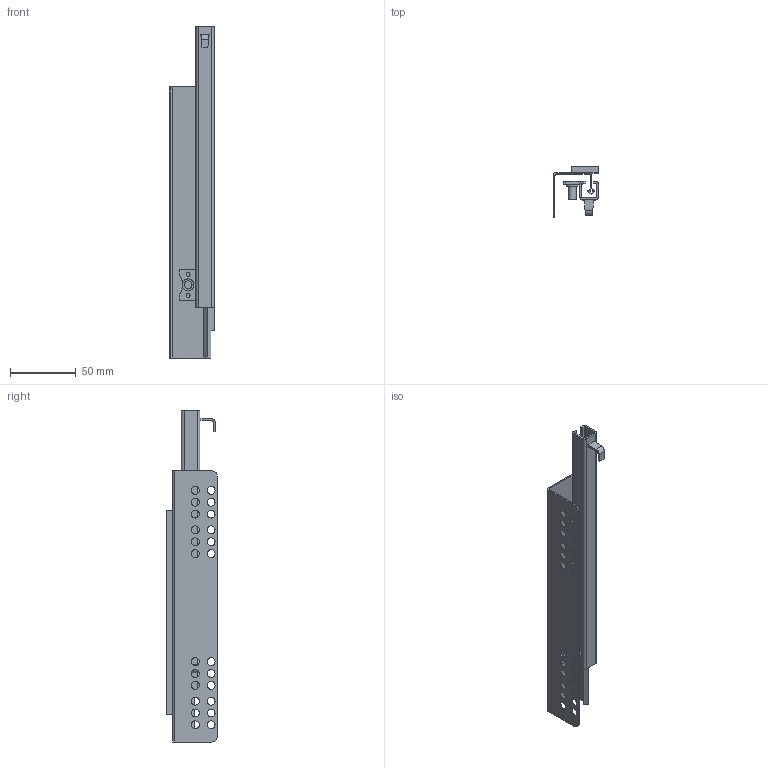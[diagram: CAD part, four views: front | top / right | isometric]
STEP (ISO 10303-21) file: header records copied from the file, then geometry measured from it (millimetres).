
FILE_DESCRIPTION(/* description */ (''),/* implementation_level */ '2;1');
FILE_NAME(/* name */ 'C:\Users\dmitruk\Documents\WORK\НАПРАВЛЯЮЩИЕ\Скрытого монтажаНаправляющая cкрытого насадного монтажа 3-4 Q-Type\Направляющая cкрытого насадного монтажа 3-4 Q-Type_P\Направляющая cкрытого насадного монтажа 3-4 Q-Type-250 L.stp',/* time_stamp */ '2020-07-27T14:54:12+03:00',/* author */ ('dmitruk'),/* organization */ (''),/* preprocessor_version */ 'ST-DEVELOPER v16.5',/* originating_system */ 'Autodesk Inventor 2017',/* authorisation */ '');
FILE_SCHEMA (('AUTOMOTIVE_DESIGN { 1 0 10303 214 3 1 1 }'));
Length unit declared in the file: millimetre
Products named in the file (1): Направляющая c\X2\043A0440
044B0442043E0433043E\X0\ насадного 
монтажа 3-4 Q-Type-250 L
Bounding box: 34 x 39 x 252 mm (x, y, z)
Volume: 46711.2 mm3; surface area: 57120.2 mm2
Topology: 2 solids, 2 shells, 108 faces, 288 edges, 188 vertices
Faces by surface type: plane 60, cylinder 46, bspline 2
Full cylindrical faces by diameter (mm): 3 x2, 6 x25, 9 x1
Entity records: 3401 total; most frequent: CARTESIAN_POINT 617, DIRECTION 564, ORIENTED_EDGE 518, EDGE_CURVE 259, AXIS2_PLACEMENT_3D 202, EDGE_LOOP 194, VERTEX_POINT 187, LINE 160
